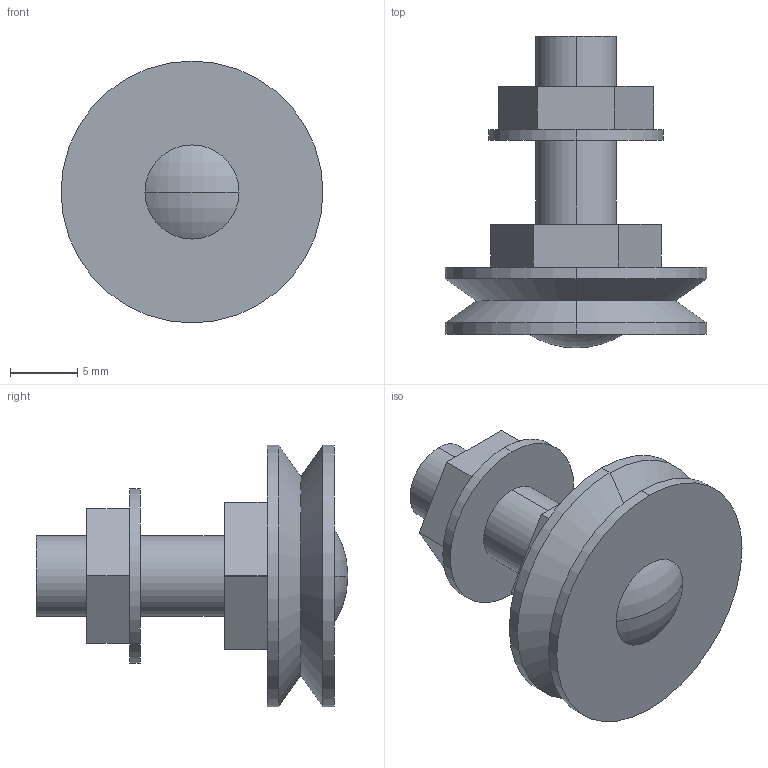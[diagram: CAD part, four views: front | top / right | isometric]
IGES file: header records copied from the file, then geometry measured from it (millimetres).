
Start section: 3D InterOp IGES (v. 2019 1.0.2), Spatial Corp. Copyright (c) 1999-2017.
Global section: file name: GLJ 195 CNS.igs; native system: Spatial Corp.; preprocessor: 3D InterOp GENERIC/IGES 3.0; author: Noname; organization: Noname; date: 20220628.170609; units: millimetre
Bounding box: 19.5 x 23.2 x 19.5 mm (x, y, z)
Surface area: 1677.1 mm2 (no closed solid volume)
Topology: 0 solids, 0 shells, 35 faces, 152 edges, 152 vertices
Faces by surface type: extrusion 19, revolution 16
